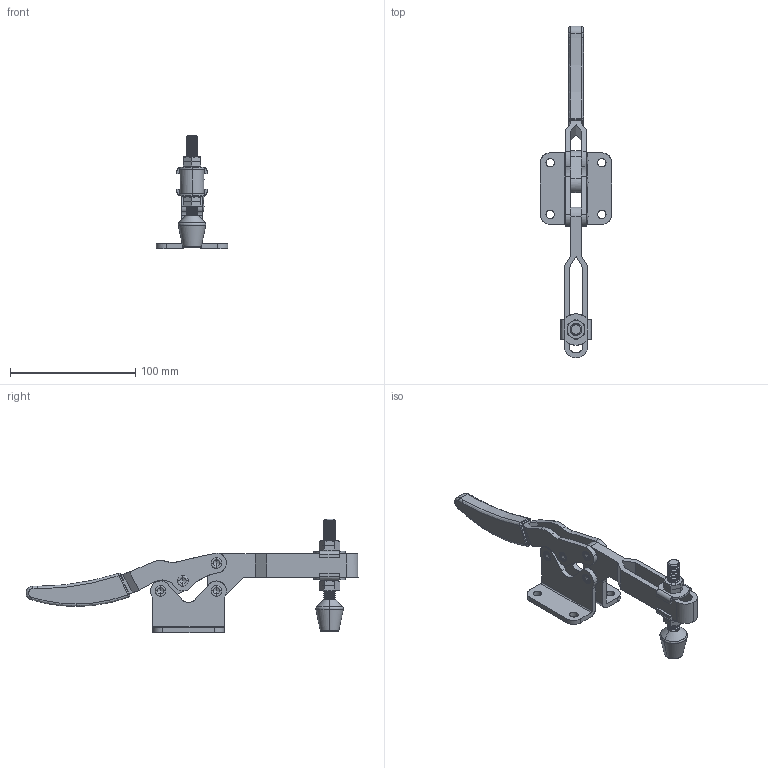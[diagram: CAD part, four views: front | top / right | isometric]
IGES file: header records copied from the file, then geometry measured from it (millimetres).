
Start section: 3D InterOp IGES (Version 17 0 1), Spatial Corp. Copyright (c) 1999-2007.
Bounding box: 57.2 x 265.58 x 91.11 mm (x, y, z)
Surface area: 57162.8 mm2 (no closed solid volume)
Topology: 0 solids, 0 shells, 586 faces, 5089 edges, 5081 vertices
Faces by surface type: bspline 586
